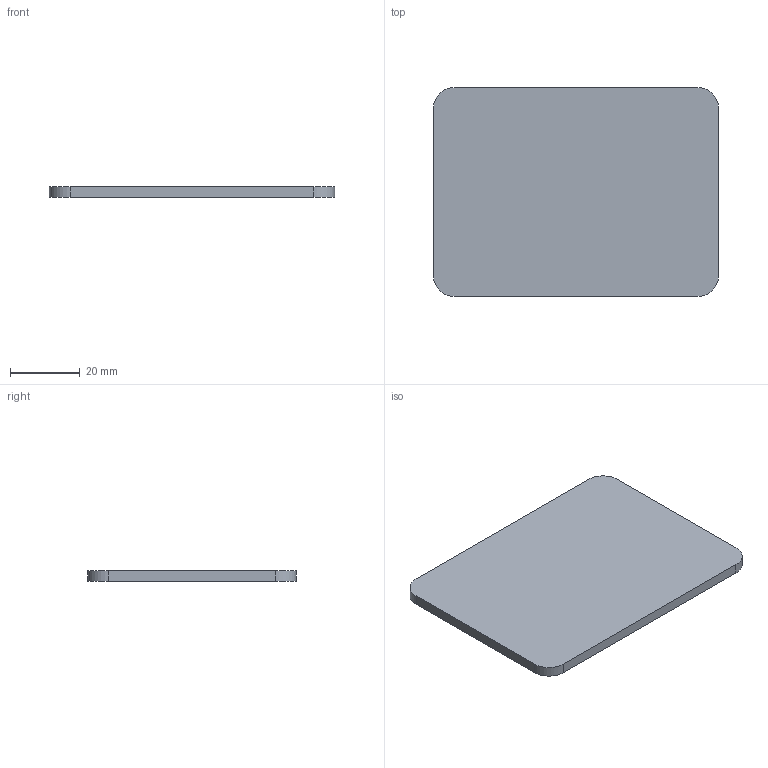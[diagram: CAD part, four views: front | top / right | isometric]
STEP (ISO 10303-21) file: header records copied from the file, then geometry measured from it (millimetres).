
FILE_DESCRIPTION(('Open CASCADE Model'),'2;1');
FILE_NAME('Open CASCADE Shape Model','2026-09-16T16:54:27',('Author'),( 'Open CASCADE'),'Open CASCADE STEP processor 7.8','Open CASCADE 7.8' ,'Unknown');
FILE_SCHEMA(('AUTOMOTIVE_DESIGN { 1 0 10303 214 1 1 1 1 }'));
Length unit declared in the file: millimetre
Products named in the file (1): Open CASCADE STEP translator 7.8 21
Bounding box: 82 x 60 x 3 mm (x, y, z)
Volume: 14667.3 mm3; surface area: 10599.3 mm2
Topology: 1 solids, 1 shells, 10 faces, 24 edges, 16 vertices
Faces by surface type: plane 6, cylinder 4
Entity records: 630 total; most frequent: CARTESIAN_POINT 123, DIRECTION 98, LINE 56, VECTOR 56, ORIENTED_EDGE 48, PCURVE 48, DEFINITIONAL_REPRESENTATION 48, EDGE_CURVE 24
